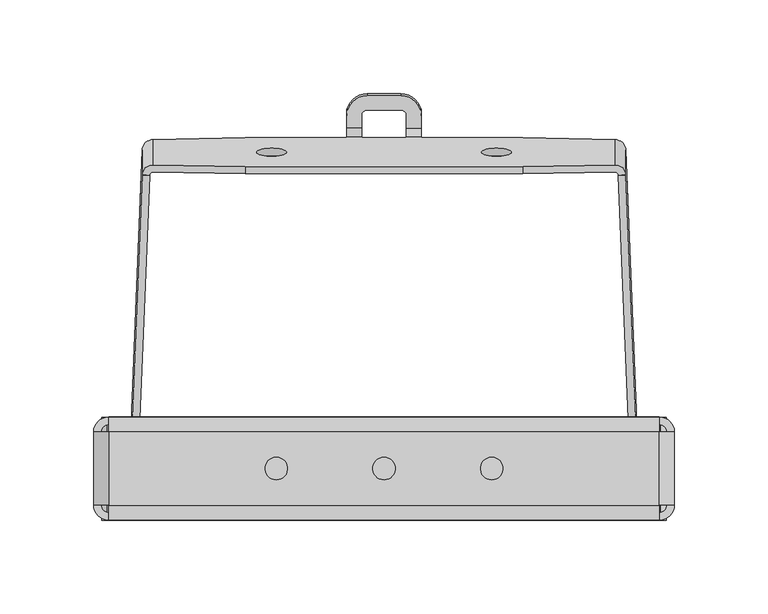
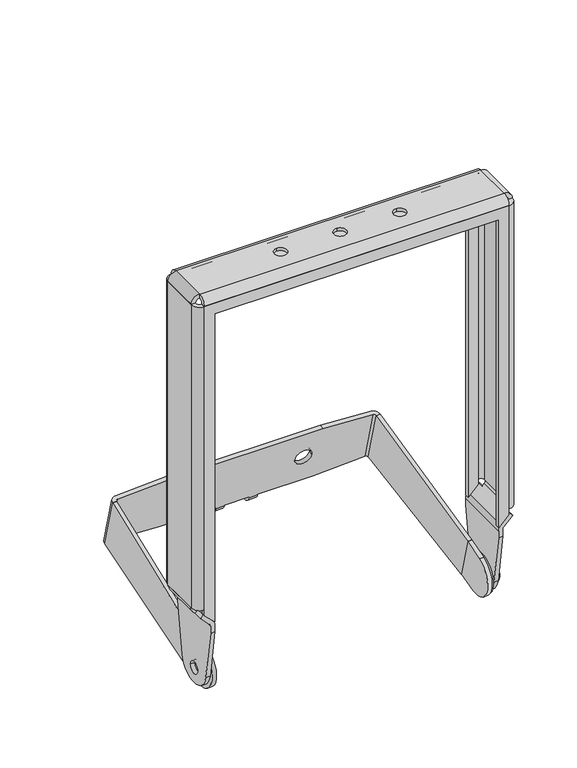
"""IFC4 building model written with IfcOpenShell, lengths in millimetres: proxy geometry, d&b U-Series U7 Swivel Bracket : d&b U-Series U7 Swivel Bracket."""

from ifc_helpers import new_model, si_unit, point, frame, frame_2d, origin, origin_2d, place, context, project, spatial, polyline, circle_curve, ellipse_curve, trimmed, segment, composite_curve, outline, extrude, source, transform, mapped, element, save
from ifc_brep_helpers import plane_surface, cylinder_surface, revolved_surface, advanced_brep


def communication_devices_1f7fb13f(model_context):
    return source(origin(), model_context, "Body", "SolidModel", [
        extrude(outline(polyline([(51.8465222, -1e-07), (0.000579, -1e-07), (5.2119989, 149.3506803), (46.6310815, 149.3506803), (51.8465222, -1e-07)])), frame((125.142689, 170.0266394, 18.7211781), z_axis=(0.999229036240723, 0.037922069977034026, 0.010161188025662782), x_axis=(0.0, -0.25881904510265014, 0.9659258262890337)), (0.0, 0.0, 1.0), 4.0),
        extrude(outline(polyline([(149.4417162, 0.0), (0.0, 0.0), (-1.4455051, 41.3938512), (147.6323189, 51.81436), (149.4417162, 0.0)])), frame((-131.0061692, 13.8071687, 25.138345), z_axis=(-0.9992290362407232, 0.03792206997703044, 0.010161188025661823), x_axis=(0.039235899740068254, 0.9555605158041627, 0.2921722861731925)), (0.0, 0.0, 1.0), 4.0),
        extrude(outline(composite_curve([segment(polyline([(13.9582388, 25.181297), (24.6788379, -14.8285235), (4.4990211, -19.4874013)]), True, "CONTINUOUS"), segment(trimmed(circle_curve(origin_2d(), 20.0), [point((4.4990211, -19.4874013))], [point((-5.8474341, 19.1260951))], False, "CARTESIAN"), True, "CONTINUOUS"), segment(polyline([(-5.8474341, 19.1260951), (13.9582388, 25.181297)]), True, "CONTINUOUS")], self_intersect=False)), frame((131.0, 0.0, 0.0), z_axis=(1.0, 0.0, 0.0), x_axis=(0.0, 1.0, 0.0)), (0.0, 0.0, 1.0), 4.0),
        advanced_brep(
        [(123.1442309, 158.4118169, 69.4923159), (74.0, 157.5223854, 72.8117194), (-74.0, 157.5223854, 72.8117194), (-123.1442309, 158.4118169, 69.4923159), (-123.1442309, 171.959118, 18.9331), (-74.0, 172.8485495, 15.6136965), (-20.0, 172.8485495, 15.6136965), (-20.0, 173.1073685, 14.6477707), (-12.0, 173.1073685, 14.6477707), (-12.0, 172.8485495, 15.6136965), (12.0, 172.8485495, 15.6136965), (12.0, 173.1073685, 14.6477707), (20.0, 173.1073685, 14.6477707), (20.0, 172.8485495, 15.6136965), (74.0, 172.8485495, 15.6136965), (123.1442309, 171.959118, 18.9331), (-68.015413, 165.1854675, 44.2127079), (-51.9395257, 165.1854675, 44.2127079), (68.015413, 165.1854675, 44.2127079), (51.9395257, 165.1854675, 44.2127079), (-123.1442309, 162.2755202, 70.5275921), (-74.0, 161.3860887, 73.8469956), (74.0, 161.3860887, 73.8469956), (123.1442309, 162.2755202, 70.5275921), (123.1442309, 175.8228213, 19.9683762), (74.0, 176.7122528, 16.6489727), (20.0, 176.7122528, 16.6489727), (20.0, 176.9710718, 15.6830468), (12.0, 176.9710718, 15.6830468), (12.0, 176.7122528, 16.6489727), (-12.0, 176.7122528, 16.6489727), (-12.0, 176.9710718, 15.6830468), (-20.0, 176.9710718, 15.6830468), (-20.0, 176.7122528, 16.6489727), (-74.0, 176.7122528, 16.6489727), (-123.1442309, 175.8228213, 19.9683762), (-51.9395257, 169.0491708, 45.2479841), (-68.015413, 169.0491708, 45.2479841), (51.9395257, 169.0491708, 45.2479841), (68.015413, 169.0491708, 45.2479841), (129.1390436, 156.815972, 68.6307247), (125.142689, 156.5919783, 68.8600161), (125.142689, 170.0669416, 18.5707684), (129.1390436, 170.1462802, 18.8813374), (-125.142689, 156.5919783, 68.8600161), (-125.142689, 170.0669416, 18.5707684), (-129.1390436, 156.815972, 68.6307247), (-129.1390436, 170.1462802, 18.8813374), (-12.0, 182.9053275, 8.9909164), (-12.0, 189.6668083, 10.8026497), (-12.0, 188.6315321, 14.666353), (-12.0, 181.8700513, 12.8546197), (-20.0, 181.8700513, 12.8546197), (-20.0, 188.6315321, 14.666353), (-20.0, 189.6668083, 10.8026497), (-20.0, 182.9053275, 8.9909164), (-9.0, 191.5293096, 15.4428102), (9.0, 191.5293096, 15.4428102), (12.0, 188.6315321, 14.666353), (12.0, 181.8700513, 12.8546197), (20.0, 181.8700513, 12.8546197), (20.0, 188.6315321, 14.666353), (9.0, 199.2567162, 17.5133625), (-9.0, 199.2567162, 17.5133625), (-9.0, 200.2919924, 13.6496592), (9.0, 200.2919924, 13.6496592), (20.0, 189.6668083, 10.8026497), (20.0, 182.9053275, 8.9909164), (12.0, 182.9053275, 8.9909164), (12.0, 189.6668083, 10.8026497), (9.0, 192.5645858, 11.5791069), (-9.0, 192.5645858, 11.5791069)],
        [
            (0, 1),
            (1, 2),
            (2, 3),
            (3, 4),
            (4, 5),
            (5, 6),
            (6, 7),
            (7, 8),
            (8, 9),
            (9, 10),
            (10, 11),
            (11, 12),
            (12, 13),
            (13, 14),
            (14, 15),
            (15, 0),
            (16, 17, circle_curve(frame((-59.9774693, 165.1854675, 44.2127079), z_axis=(0.0, 0.9659258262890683, 0.2588190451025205), x_axis=(1.0, 0.0, 0.0)), 8.0379437)),
            (17, 16, circle_curve(frame((-59.9774693, 165.1854675, 44.2127079), z_axis=(0.0, 0.9659258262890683, 0.2588190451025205), x_axis=(1.0, 0.0, 0.0)), 8.0379437)),
            (18, 19, circle_curve(frame((59.9774693, 165.1854675, 44.2127079), z_axis=(0.0, 0.9659258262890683, 0.2588190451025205), x_axis=(-1.0, 0.0, 0.0)), 8.0379437)),
            (19, 18, circle_curve(frame((59.9774693, 165.1854675, 44.2127079), z_axis=(0.0, 0.9659258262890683, 0.2588190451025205), x_axis=(-1.0, 0.0, 0.0)), 8.0379437)),
            (20, 21),
            (21, 22),
            (22, 23),
            (23, 24),
            (24, 25),
            (25, 26),
            (26, 27),
            (27, 28),
            (28, 29),
            (29, 30),
            (30, 31),
            (31, 32),
            (32, 33),
            (33, 34),
            (34, 35),
            (35, 20),
            (36, 37, circle_curve(frame((-59.9774693, 169.0491708, 45.2479841), z_axis=(0.0, -0.9659258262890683, -0.2588190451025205), x_axis=(1.0, 0.0, 0.0)), 8.0379437)),
            (37, 36, circle_curve(frame((-59.9774693, 169.0491708, 45.2479841), z_axis=(0.0, -0.9659258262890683, -0.2588190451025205), x_axis=(1.0, 0.0, 0.0)), 8.0379437)),
            (38, 39, circle_curve(frame((59.9774693, 169.0491708, 45.2479841), z_axis=(0.0, -0.9659258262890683, -0.2588190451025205), x_axis=(-1.0, 0.0, 0.0)), 8.0379437)),
            (39, 38, circle_curve(frame((59.9774693, 169.0491708, 45.2479841), z_axis=(0.0, -0.9659258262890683, -0.2588190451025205), x_axis=(-1.0, 0.0, 0.0)), 8.0379437)),
            (40, 41),
            (41, 42),
            (42, 43),
            (43, 40),
            (17, 36),
            (37, 16),
            (19, 38),
            (39, 18),
            (3, 44, ellipse_curve(frame((-123.1442309, 156.4799653, 68.9746778), z_axis=(-0.06975647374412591, -0.2581885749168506, 0.9635728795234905), x_axis=(-0.9975640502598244, 0.018054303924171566, -0.06737957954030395)), 2.0048838, 2.0)),
            (44, 45),
            (45, 4, ellipse_curve(frame((-123.1442309, 170.0272663, 18.4154619), z_axis=(-0.0697564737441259, 0.25818857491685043, -0.9635728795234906), x_axis=(0.9975640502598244, 0.01805430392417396, -0.06737957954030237)), 2.0048838, 2.0)),
            (44, 46),
            (46, 47),
            (47, 45),
            (35, 47, ellipse_curve(frame((-123.1442309, 170.0278313, 18.4156133), z_axis=(0.0697564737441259, -0.25818857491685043, 0.9635728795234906), x_axis=(-0.9975640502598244, -0.01805430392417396, 0.06737957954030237)), 6.014065, 5.9994151)),
            (46, 20, ellipse_curve(frame((-123.1442309, 156.4805303, 68.9748292), z_axis=(0.06975647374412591, 0.2581885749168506, -0.9635728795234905), x_axis=(0.9975640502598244, -0.018054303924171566, 0.06737957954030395)), 6.014065, 5.9994151)),
            (43, 24, ellipse_curve(frame((123.1442309, 170.0278313, 18.4156133), z_axis=(-0.06975647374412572, -0.2581885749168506, 0.9635728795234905), x_axis=(0.9975640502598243, -0.01805430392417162, 0.06737957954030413)), 6.014065, 5.9994151)),
            (23, 40, ellipse_curve(frame((123.1442309, 156.4805303, 68.9748292), z_axis=(-0.06975647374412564, 0.2581885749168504, -0.9635728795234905), x_axis=(-0.9975640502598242, -0.01805430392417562, 0.06737957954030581)), 6.014065, 5.9994151)),
            (15, 42, ellipse_curve(frame((123.1442309, 170.0272663, 18.4154619), z_axis=(0.06975647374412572, 0.2581885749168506, -0.9635728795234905), x_axis=(-0.9975640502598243, 0.01805430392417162, -0.06737957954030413)), 2.0048838, 2.0)),
            (41, 0, ellipse_curve(frame((123.1442309, 156.4799653, 68.9746778), z_axis=(0.06975647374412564, -0.2581885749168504, 0.9635728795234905), x_axis=(0.9975640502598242, 0.01805430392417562, -0.06737957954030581)), 2.0048838, 2.0)),
            (14, 25),
            (13, 26),
            (33, 6),
            (5, 34),
            (29, 10),
            (9, 30),
            (2, 21),
            (1, 22),
            (8, 48, circle_curve(frame((-12.0, 180.8347751, 16.718323), z_axis=(1.0, 0.0, 0.0), x_axis=(0.0, 0.9659258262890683, 0.2588190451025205)), 8.0)),
            (48, 49),
            (49, 50),
            (50, 51),
            (51, 31, circle_curve(frame((-12.0, 180.8347751, 16.718323), z_axis=(-1.0, 0.0, 0.0), x_axis=(0.0, 0.9659258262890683, 0.2588190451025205)), 4.0)),
            (32, 52, circle_curve(frame((-20.0, 180.8347751, 16.718323), z_axis=(1.0, 0.0, 0.0), x_axis=(0.0, 0.9659258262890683, 0.2588190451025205)), 4.0)),
            (52, 53),
            (53, 54),
            (54, 55),
            (55, 7, circle_curve(frame((-20.0, 180.8347751, 16.718323), z_axis=(-1.0, 0.0, 0.0), x_axis=(0.0, 0.9659258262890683, 0.2588190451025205)), 8.0)),
            (51, 52),
            (50, 56, circle_curve(frame((-9.0, 188.6315321, 14.666353), z_axis=(0.0, 0.2588190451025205, -0.9659258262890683), x_axis=(1.0, 0.0, 0.0)), 3.0)),
            (56, 57),
            (57, 58, circle_curve(frame((9.0, 188.6315321, 14.666353), z_axis=(0.0, 0.2588190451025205, -0.9659258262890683), x_axis=(-1.0, 0.0, 0.0)), 3.0)),
            (58, 59),
            (59, 60),
            (60, 61),
            (61, 62, circle_curve(frame((9.0, 188.6315321, 14.666353), z_axis=(0.0, -0.2588190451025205, 0.9659258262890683), x_axis=(-1.0, 0.0, 0.0)), 11.0)),
            (62, 63),
            (63, 53, circle_curve(frame((-9.0, 188.6315321, 14.666353), z_axis=(0.0, -0.2588190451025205, 0.9659258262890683), x_axis=(1.0, 0.0, 0.0)), 11.0)),
            (48, 55),
            (54, 64, circle_curve(frame((-9.0, 189.6668083, 10.8026497), z_axis=(0.0, 0.2588190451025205, -0.9659258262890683), x_axis=(1.0, 0.0, 0.0)), 11.0)),
            (64, 65),
            (65, 66, circle_curve(frame((9.0, 189.6668083, 10.8026497), z_axis=(0.0, 0.2588190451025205, -0.9659258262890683), x_axis=(-1.0, 0.0, 0.0)), 11.0)),
            (66, 67),
            (67, 68),
            (68, 69),
            (69, 70, circle_curve(frame((9.0, 189.6668083, 10.8026497), z_axis=(0.0, -0.2588190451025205, 0.9659258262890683), x_axis=(-1.0, 0.0, 0.0)), 3.0)),
            (70, 71),
            (71, 49, circle_curve(frame((-9.0, 189.6668083, 10.8026497), z_axis=(0.0, -0.2588190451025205, 0.9659258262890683), x_axis=(1.0, 0.0, 0.0)), 3.0)),
            (28, 59, circle_curve(frame((12.0, 180.8347751, 16.718323), z_axis=(1.0, 0.0, 0.0), x_axis=(0.0, 0.9659258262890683, 0.2588190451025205)), 4.0)),
            (58, 69),
            (68, 11, circle_curve(frame((12.0, 180.8347751, 16.718323), z_axis=(-1.0, 0.0, 0.0), x_axis=(0.0, 0.9659258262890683, 0.2588190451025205)), 8.0)),
            (12, 67, circle_curve(frame((20.0, 180.8347751, 16.718323), z_axis=(1.0, 0.0, 0.0), x_axis=(0.0, 0.9659258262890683, 0.2588190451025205)), 8.0)),
            (66, 61),
            (60, 27, circle_curve(frame((20.0, 180.8347751, 16.718323), z_axis=(-1.0, 0.0, 0.0), x_axis=(0.0, 0.9659258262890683, 0.2588190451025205)), 4.0)),
            (56, 71),
            (70, 57),
            (63, 64),
            (62, 65),
        ],
        [
            plane_surface(frame((123.1442309, 152.5170253, 91.4919777), z_axis=(0.0, -0.9659258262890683, -0.2588190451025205), x_axis=(0.0, 0.2588190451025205, -0.9659258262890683))),
            plane_surface(frame((-123.1442309, 156.3807286, 92.5272539), z_axis=(0.0, 0.9659258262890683, 0.2588190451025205), x_axis=(0.0, 0.2588190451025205, -0.9659258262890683))),
            plane_surface(frame((129.1390436, 150.8126839, 91.0353008), z_axis=(0.0392596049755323, -0.9651811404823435, -0.25861950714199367), x_axis=(0.0, 0.2588190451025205, -0.9659258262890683))),
            revolved_surface(polyline([(-51.9395256, 169.04917079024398, 45.24798413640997), (-51.9395256, 165.18546748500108, 44.21270795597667)]), (-59.9774693, 144.9010251, 38.777508), (0.0, 0.9659258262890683, 0.2588190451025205)),
            revolved_surface(polyline([(51.9395256, 169.0491708, 45.2479841), (51.9395256, 165.18546749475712, 44.212707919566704)]), (59.9774693, 169.0491708, 45.2479841), (0.0, 0.9659258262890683, 0.2588190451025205)),
            revolved_surface(polyline([(-125.1442309, 170.06346311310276, 18.28037368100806), (-125.1442309, 156.44376848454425, 69.10976601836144)]), (-123.1442309, 173.893741, 3.985582), (0.0, 0.2588190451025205, -0.9659258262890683)),
            plane_surface(frame((-125.142689, 150.6610178, 90.994662), z_axis=(-0.03925960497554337, -0.9651811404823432, -0.2586195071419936), x_axis=(0.0, 0.2588190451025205, -0.9659258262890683))),
            cylinder_surface(frame((-123.1442309, 173.894306, 3.9857334), z_axis=(0.0, -0.2588190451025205, 0.9659258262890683), x_axis=(-1.0, 0.0, 0.0)), 5.9994151),
            cylinder_surface(frame((123.1442309, 173.894306, 3.9857334), z_axis=(0.0, -0.2588190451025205, 0.9659258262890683), x_axis=(1.0, 0.0, 0.0)), 5.9994151),
            revolved_surface(polyline([(125.1442309, 170.06346311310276, 18.28037368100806), (125.1442309, 156.44376848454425, 69.10976601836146)]), (123.1442309, 173.893741, 3.985582), (0.0, 0.2588190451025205, -0.9659258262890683)),
            plane_surface(frame((141.9929542, 223.9217654, 34.2209756), z_axis=(0.06975647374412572, 0.2581885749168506, -0.9635728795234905), x_axis=(0.0, -0.9659258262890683, -0.2588190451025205))),
            plane_surface(frame((74.0, 225.1523285, 29.6284518), z_axis=(0.0, 0.2588190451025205, -0.9659258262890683), x_axis=(0.0, -0.9659258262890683, -0.2588190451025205))),
            plane_surface(frame((-74.0, 225.1523285, 29.6284518), z_axis=(-0.06975647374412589, 0.2581885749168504, -0.9635728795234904), x_axis=(0.0, -0.9659258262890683, -0.2588190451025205))),
            plane_surface(frame((-148.0070458, 211.1655728, 81.8277344), z_axis=(-0.06975647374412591, -0.2581885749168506, 0.9635728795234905), x_axis=(0.0, -0.9659258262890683, -0.2588190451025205))),
            plane_surface(frame((-74.0, 209.8261644, 86.8264747), z_axis=(0.0, -0.2588190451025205, 0.9659258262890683), x_axis=(0.0, -0.9659258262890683, -0.2588190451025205))),
            plane_surface(frame((74.0, 209.8261644, 86.8264747), z_axis=(0.06975647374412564, -0.2581885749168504, 0.9635728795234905), x_axis=(0.0, -0.9659258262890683, -0.2588190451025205))),
            plane_surface(frame((-12.0, 184.6984784, 17.7535992), z_axis=(1.0, 0.0, 0.0), x_axis=(0.0, -0.2588190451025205, 0.9659258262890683))),
            plane_surface(frame((-20.0, 184.6984784, 17.7535992), z_axis=(-1.0, 0.0, 0.0), x_axis=(0.0, 0.2588190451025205, -0.9659258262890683))),
            revolved_surface(polyline([(-20.0, 184.69847840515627, 17.753599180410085), (-12.0, 184.69847840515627, 17.753599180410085)]), (-20.0, 180.8347751, 16.718323), (-1.0, 0.0, 0.0)),
            plane_surface(frame((-12.0, 181.8700513, 12.8546197), z_axis=(0.0, -0.2588190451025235, 0.9659258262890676), x_axis=(-1.0, 0.0, 0.0))),
            plane_surface(frame((-12.0, 189.6668083, 10.8026497), z_axis=(0.0, 0.258819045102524, -0.9659258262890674), x_axis=(-1.0, 0.0, 0.0))),
            cylinder_surface(frame((-20.0, 180.8347751, 16.718323), z_axis=(1.0, 0.0, 0.0), x_axis=(0.0, 0.9659258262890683, 0.2588190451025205)), 8.0),
            plane_surface(frame((12.0, 175.8228213, 19.9683762), z_axis=(-1.0, 0.0, 0.0), x_axis=(0.0, -0.2588190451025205, 0.9659258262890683))),
            plane_surface(frame((20.0, 175.8228213, 19.9683762), z_axis=(1.0, 0.0, 0.0), x_axis=(0.0, 0.2588190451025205, -0.9659258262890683))),
            revolved_surface(polyline([(20.0, 184.69847840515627, 17.753599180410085), (12.0, 184.69847840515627, 17.753599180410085)]), (20.0, 180.8347751, 16.718323), (1.0, 0.0, 0.0)),
            cylinder_surface(frame((20.0, 180.8347751, 16.718323), z_axis=(-1.0, 0.0, 0.0), x_axis=(0.0, 0.9659258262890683, 0.2588190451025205)), 8.0),
            plane_surface(frame((9.0, 191.5293096, 15.4428102), z_axis=(0.0, -0.9659258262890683, -0.2588190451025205), x_axis=(0.0, 0.2588190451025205, -0.9659258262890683))),
            revolved_surface(polyline([(-6.0, 189.6668083, 10.8026497), (-6.0, 188.63153210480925, 14.666353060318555)]), (-9.0, 189.6668083, 10.8026497), (0.0, 0.2588190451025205, -0.9659258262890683)),
            cylinder_surface(frame((-9.0, 189.6668083, 10.8026497), z_axis=(0.0, -0.2588190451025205, 0.9659258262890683), x_axis=(1.0, 0.0, 0.0)), 11.0),
            plane_surface(frame((-9.0, 199.2567162, 17.5133625), z_axis=(0.0, 0.9659258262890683, 0.2588190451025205), x_axis=(0.0, 0.2588190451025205, -0.9659258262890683))),
            cylinder_surface(frame((9.0, 189.6668083, 10.8026497), z_axis=(0.0, -0.2588190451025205, 0.9659258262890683), x_axis=(-1.0, 0.0, 0.0)), 11.0),
            revolved_surface(polyline([(6.0, 189.6668083, 10.8026497), (6.0, 188.63153210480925, 14.666353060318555)]), (9.0, 189.6668083, 10.8026497), (0.0, 0.2588190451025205, -0.9659258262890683)),
        ],
        [
            (0, [[1, 2, 3, 4, 5, 6, 7, 8, 9, 10, 11, 12, 13, 14, 15, 16], [17, 18], [19, 20]]),
            (1, [[21, 22, 23, 24, 25, 26, 27, 28, 29, 30, 31, 32, 33, 34, 35, 36], [37, 38], [39, 40]]),
            (2, [[41, 42, 43, 44]]),
            (3, [[-18, 45, -38, 46]]),
            (3, [[-37, -45, -17, -46]]),
            (4, [[-20, 47, -40, 48]]),
            (4, [[-39, -47, -19, -48]]),
            (5, [[49, 50, 51, -4]]),
            (6, [[52, 53, 54, -50]]),
            (7, [[55, -53, 56, -36]]),
            (8, [[57, -24, 58, -44]]),
            (9, [[59, -42, 60, -16]]),
            (10, [[-25, -57, -43, -59, -15, 61]]),
            (11, [[-14, 62, -26, -61]]),
            (11, [[-34, 63, -6, 64]]),
            (11, [[-30, 65, -10, 66]]),
            (12, [[-5, -51, -54, -55, -35, -64]]),
            (13, [[-21, -56, -52, -49, -3, 67]]),
            (14, [[-2, 68, -22, -67]]),
            (15, [[-1, -60, -41, -58, -23, -68]]),
            (16, [[-31, -66, -9, 69, 70, 71, 72, 73]]),
            (17, [[74, 75, 76, 77, 78, -7, -63, -33]]),
            (18, [[79, -74, -32, -73]]),
            (19, [[80, 81, 82, 83, 84, 85, 86, 87, 88, -75, -79, -72]]),
            (20, [[89, -77, 90, 91, 92, 93, 94, 95, 96, 97, 98, -70]]),
            (21, [[-8, -78, -89, -69]]),
            (22, [[99, -83, 100, -95, 101, -11, -65, -29]]),
            (23, [[-27, -62, -13, 102, -93, 103, -85, 104]]),
            (24, [[-28, -104, -84, -99]]),
            (25, [[-94, -102, -12, -101]]),
            (26, [[105, -97, 106, -81]]),
            (27, [[-71, -98, -105, -80]]),
            (28, [[107, -90, -76, -88]]),
            (29, [[108, -91, -107, -87]]),
            (30, [[-103, -92, -108, -86]]),
            (31, [[-106, -96, -100, -82]]),
        ],
    ),
        advanced_brep(
        [(-135.0, -5.8474341, 19.1260951), (-135.0, 10.0493739, 23.9862371), (-135.0, 13.9582388, 25.181297), (-135.0, 24.6788379, -14.8285235), (-135.0, 20.6961316, -15.7480037), (-135.0, 4.4990211, -19.4874013), (-131.0, 13.9582388, 25.181297), (-131.0, 10.0493739, 23.9862371), (-131.0, -5.8474341, 19.1260951), (-131.0, 4.4990211, -19.4874013), (-131.0, 20.6961316, -15.7480037), (-131.0, 24.6788379, -14.8285235)],
        [
            (0, 1),
            (1, 2),
            (2, 3),
            (3, 4),
            (4, 5),
            (5, 0, circle_curve(frame((-135.0, 0.0, 0.0), z_axis=(-1.0, 0.0, 0.0), x_axis=(0.0, 0.9659258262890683, 0.2588190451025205)), 20.0)),
            (6, 7),
            (7, 8),
            (8, 9, circle_curve(frame((-131.0, 0.0, 0.0), z_axis=(1.0, 0.0, 0.0), x_axis=(0.0, 0.9659258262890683, 0.2588190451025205)), 20.0)),
            (9, 10),
            (10, 11),
            (11, 6),
            (5, 9),
            (8, 0),
            (2, 6),
            (11, 3),
        ],
        [
            plane_surface(frame((-135.0, -5.8474341, 19.1260951), z_axis=(-1.0000000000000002, 0.0, 0.0), x_axis=(0.0, -0.9563047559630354, -0.2923717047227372))),
            plane_surface(frame((-131.0, -5.8474341, 19.1260951), z_axis=(1.0000000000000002, 0.0, 0.0), x_axis=(0.0, 0.9563047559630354, 0.2923717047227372))),
            cylinder_surface(frame((-131.0, 0.0, 0.0), z_axis=(-1.0, 0.0, 0.0), x_axis=(0.0, 0.9659258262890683, 0.2588190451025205)), 20.0),
            plane_surface(frame((-135.0, 24.6788379, -14.8285235), z_axis=(0.0, 0.965925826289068, 0.2588190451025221), x_axis=(1.0, 0.0, 0.0))),
            plane_surface(frame((-135.0, 4.4990211, -19.4874013), z_axis=(0.0, 0.22495105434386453, -0.9743700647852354), x_axis=(1.0, 0.0, 0.0))),
            plane_surface(frame((-135.0, 13.9582388, 25.181297), z_axis=(0.0, -0.2923717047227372, 0.9563047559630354), x_axis=(1.0, 0.0, 0.0))),
        ],
        [
            (0, [[1, 2, 3, 4, 5, 6]]),
            (1, [[7, 8, 9, 10, 11, 12]]),
            (2, [[13, -9, 14, -6]]),
            (3, [[15, -12, 16, -3]]),
            (4, [[-11, -10, -13, -5, -4, -16]]),
            (5, [[-2, -1, -14, -8, -7, -15]]),
        ],
    ),
        extrude(outline(polyline([(376.1, 137.0), (61.8431458, 137.0), (71.7740865, 146.9309407), (387.0, 146.9309407), (387.0, -146.9309407), (71.7740865, -146.9309407), (61.8431458, -137.0), (376.1, -137.0), (376.1, 137.0)])), frame((0.0, 23.5263009, 0.0), z_axis=(0.0, 1.0, 0.0), x_axis=(0.0, 0.0, 1.0)), (0.0, 0.0, 1.0), 4.0016589),
        extrude(outline(polyline([(376.1, 137.0), (61.8431458, 137.0), (71.7740865, 146.9309407), (387.0, 146.9309407), (387.0, -146.9309407), (71.7740865, -146.9309407), (61.8431458, -137.0), (376.1, -137.0), (376.1, 137.0)])), frame((0.0, -27.5279598, 0.0), z_axis=(0.0, 1.0, 0.0), x_axis=(0.0, 0.0, 1.0)), (0.0, 0.0, 1.0), 4.0016589),
        extrude(outline(composite_curve([segment(polyline([(-154.9570429, -19.5018577), (-154.9570429, 19.4895115)]), True, "CONTINUOUS"), segment(trimmed(circle_curve(frame_2d((-146.9309407, 19.4895115)), 8.0261021), [point((-154.9570429, 19.4895115))], [point((-146.9309407, 27.5156136))], False, "CARTESIAN"), True, "CONTINUOUS"), segment(polyline([(-146.9309407, 27.5156136), (-146.9309407, 23.5139547)]), True, "CONTINUOUS"), segment(trimmed(circle_curve(frame_2d((-146.9309407, 19.4876538)), 4.0263009), [point((-146.9309407, 23.5139547))], [point((-150.9572417, 19.4876538))], True, "CARTESIAN"), True, "CONTINUOUS"), segment(polyline([(-150.9572417, 19.4876538), (-150.9572417, -19.5)]), True, "CONTINUOUS"), segment(trimmed(circle_curve(frame_2d((-146.9309407, -19.5)), 4.0263009), [point((-150.9572417, -19.5))], [point((-146.9309407, -23.5263009))], True, "CARTESIAN"), True, "CONTINUOUS"), segment(polyline([(-146.9309407, -23.5263009), (-146.9309407, -27.5279598)]), True, "CONTINUOUS"), segment(trimmed(circle_curve(frame_2d((-146.9309407, -19.5018577)), 8.0261021), [point((-146.9309407, -27.5279598))], [point((-154.9570429, -19.5018577))], False, "CARTESIAN"), True, "CONTINUOUS")], self_intersect=False)), frame((0.0, 0.0, 77.5), z_axis=(0.0, 0.0, 1.0), x_axis=(1.0, 0.0, 0.0)), (0.0, 0.0, 1.0), 309.5),
        extrude(outline(composite_curve([segment(trimmed(circle_curve(frame_2d((146.9309407, -19.5018577)), 8.0261021), [point((154.9570429, -19.5018577))], [point((146.9309407, -27.5279598))], False, "CARTESIAN"), True, "CONTINUOUS"), segment(polyline([(146.9309407, -27.5279598), (146.9309407, -23.5263009)]), True, "CONTINUOUS"), segment(trimmed(circle_curve(frame_2d((146.9309407, -19.5)), 4.0263009), [point((146.9309407, -23.5263009))], [point((150.9572417, -19.5))], True, "CARTESIAN"), True, "CONTINUOUS"), segment(polyline([(150.9572417, -19.5), (150.9572417, 19.4876538)]), True, "CONTINUOUS"), segment(trimmed(circle_curve(frame_2d((146.9309407, 19.4876538)), 4.0263009), [point((150.9572417, 19.4876538))], [point((146.9309407, 23.5139547))], True, "CARTESIAN"), True, "CONTINUOUS"), segment(polyline([(146.9309407, 23.5139547), (146.9309407, 27.5156136)]), True, "CONTINUOUS"), segment(trimmed(circle_curve(frame_2d((146.9309407, 19.4895115)), 8.0261021), [point((146.9309407, 27.5156136))], [point((154.9570429, 19.4895115))], False, "CARTESIAN"), True, "CONTINUOUS"), segment(polyline([(154.9570429, 19.4895115), (154.9570429, -19.5018577)]), True, "CONTINUOUS")], self_intersect=False)), frame((0.0, 0.0, 77.5), z_axis=(0.0, 0.0, 1.0), x_axis=(1.0, 0.0, 0.0)), (0.0, 0.0, 1.0), 309.5),
        advanced_brep(
        [(147.2, 0.0, -11.75), (147.2, 0.0, 0.0), (147.2, 0.0, 11.75), (141.0, 0.0, 0.0), (141.0, 0.0, -11.75), (141.0, 0.0, 11.75)],
        [
            (0, 1),
            (1, 2),
            (2, 0, circle_curve(frame((147.2, 0.0, 0.0), z_axis=(1.0, 0.0, 0.0), x_axis=(0.0, 0.0, 1.0)), 11.75)),
            (0, 2, circle_curve(frame((147.2, 0.0, 0.0), z_axis=(1.0, 0.0, 0.0), x_axis=(0.0, 0.0, 1.0)), 11.75)),
            (3, 4),
            (4, 5, circle_curve(frame((141.0, 0.0, 0.0), z_axis=(-1.0, 0.0, 0.0), x_axis=(0.0, 0.0, 1.0)), 11.75)),
            (5, 3),
            (5, 4, circle_curve(frame((141.0, 0.0, 0.0), z_axis=(-1.0, 0.0, 0.0), x_axis=(0.0, 0.0, 1.0)), 11.75)),
            (4, 0),
            (2, 5),
        ],
        [
            plane_surface(frame((147.2, 0.0, 0.0), z_axis=(1.0, 0.0, 0.0), x_axis=(0.0, 0.0, 1.0))),
            plane_surface(frame((141.0, 0.0, 0.0), z_axis=(-1.0, 0.0, 0.0), x_axis=(0.0, 0.0, 1.0))),
            cylinder_surface(frame((130.2, 0.0, 0.0), z_axis=(-1.0, 0.0, 0.0), x_axis=(0.0, 0.0, 1.0)), 11.75),
        ],
        [
            (0, [[1, 2, 3]]),
            (0, [[-2, -1, 4]]),
            (1, [[5, 6, 7]]),
            (1, [[-7, 8, -5]]),
            (2, [[9, -3, 10, -6]]),
            (2, [[-10, -4, -9, -8]]),
        ],
    ),
        advanced_brep(
        [(135.0030853, 0.0, -19.0085486), (137.0744152, 0.0, -19.0085486), (137.0744152, 0.0, 19.0085486), (135.0030853, 0.0, 19.0085486), (137.0744152, 0.0, 0.0), (135.0030853, 0.0, 0.0)],
        [
            (0, 1),
            (1, 2, circle_curve(frame((137.0744152, 0.0, 0.0), z_axis=(-1.0, 0.0, 0.0), x_axis=(0.0, 0.0, 1.0)), 19.0085486)),
            (2, 3),
            (3, 0, circle_curve(frame((135.0030853, 0.0, 0.0), z_axis=(1.0, 0.0, 0.0), x_axis=(0.0, 0.0, 1.0)), 19.0085486)),
            (2, 1, circle_curve(frame((137.0744152, 0.0, 0.0), z_axis=(-1.0, 0.0, 0.0), x_axis=(0.0, 0.0, 1.0)), 19.0085486)),
            (0, 3, circle_curve(frame((135.0030853, 0.0, 0.0), z_axis=(1.0, 0.0, 0.0), x_axis=(0.0, 0.0, 1.0)), 19.0085486)),
            (1, 4),
            (4, 2),
            (5, 0),
            (3, 5),
        ],
        [
            cylinder_surface(frame((130.2, 0.0, 0.0), z_axis=(-1.0, 0.0, 0.0), x_axis=(0.0, 0.0, 1.0)), 19.0085486),
            plane_surface(frame((137.0744152, 0.0, 0.0), z_axis=(1.0, 0.0, 0.0), x_axis=(0.0, 0.0, 1.0))),
            plane_surface(frame((135.0030853, 0.0, 0.0), z_axis=(-1.0, 0.0, 0.0), x_axis=(0.0, 0.0, 1.0))),
        ],
        [
            (0, [[1, 2, 3, 4]]),
            (0, [[-3, 5, -1, 6]]),
            (1, [[7, 8, -2]]),
            (1, [[-8, -7, -5]]),
            (2, [[9, -4, 10]]),
            (2, [[-10, -6, -9]]),
        ],
    ),
        advanced_brep(
        [(-137.0, 27.5, 51.7799875), (-141.0, 27.5, 51.7799875), (-141.0, 27.5, 58.5294373), (-142.1715729, 27.5, 61.3578644), (-150.6494216, 27.5, 69.8357131), (-147.8209945, 27.5, 72.6641403), (-139.3431458, 27.5, 64.1862915), (-137.0, 27.5, 58.5294373), (-141.0, -27.5, 51.7799875), (-137.0, -27.5, 51.7799875), (-137.0, -27.5, 58.5294373), (-139.3431458, -27.5, 64.1862915), (-147.8209945, -27.5, 72.6641403), (-150.6494216, -27.5, 69.8357131), (-142.1715729, -27.5, 61.3578644), (-141.0, -27.5, 58.5294373), (-137.0, -19.7654158, 1.7257548), (-137.0, 19.7654158, 1.7257548), (-137.0, 6.0, 0.0), (-137.0, -6.0, 0.0), (-147.8209945, 18.7, 72.6641403), (-149.8284271, 18.7, 74.6715729), (-149.8284271, -18.7, 74.6715729), (-147.8209945, -18.7, 72.6641403), (-150.6494216, -18.7, 69.8357131), (-150.6494216, 18.7, 69.8357131), (-152.6568542, -18.7, 71.8431458), (-152.6568542, 18.7, 71.8431458), (-141.0, 19.7654158, 1.7257548), (-141.0, -19.7654158, 1.7257548), (-141.0, 6.0, 0.0), (-141.0, -6.0, 0.0), (-150.9563542, 18.7, 77.5), (-154.9570429, 18.7, 77.5), (-150.9563542, -18.7, 77.5), (-154.9570429, -18.7, 77.5)],
        [
            (0, 1),
            (1, 2),
            (2, 3, circle_curve(frame((-145.0, 27.5, 58.5294373), z_axis=(0.0, -1.0, 0.0), x_axis=(1.0, 0.0, 0.0)), 4.0)),
            (3, 4),
            (4, 5),
            (5, 6),
            (6, 7, circle_curve(frame((-145.0, 27.5, 58.5294373), z_axis=(0.0, 1.0, 0.0), x_axis=(1.0, 0.0, 0.0)), 8.0)),
            (7, 0),
            (8, 9),
            (9, 10),
            (10, 11, circle_curve(frame((-145.0, -27.5, 58.5294373), z_axis=(0.0, -1.0, 0.0), x_axis=(1.0, 0.0, 0.0)), 8.0)),
            (11, 12),
            (12, 13),
            (13, 14),
            (14, 15, circle_curve(frame((-145.0, -27.5, 58.5294373), z_axis=(0.0, 1.0, 0.0), x_axis=(1.0, 0.0, 0.0)), 4.0)),
            (15, 8),
            (7, 10),
            (9, 16),
            (16, 17, circle_curve(frame((-137.0, 0.0, 4.7799875), z_axis=(1.0, 0.0, 0.0), x_axis=(0.0, -1.0, 0.0)), 20.0)),
            (17, 0),
            (18, 19, circle_curve(frame((-137.0, 0.0, 0.0), z_axis=(-1.0, 0.0, 0.0), x_axis=(0.0, -1.0, 0.0)), 6.0)),
            (19, 18, circle_curve(frame((-137.0, 0.0, 0.0), z_axis=(-1.0, 0.0, 0.0), x_axis=(0.0, -1.0, 0.0)), 6.0)),
            (6, 11),
            (5, 20),
            (20, 21),
            (21, 22),
            (22, 23),
            (23, 12),
            (23, 24),
            (24, 13),
            (4, 25),
            (25, 20),
            (3, 14),
            (24, 26),
            (26, 27),
            (27, 25),
            (2, 15),
            (1, 28),
            (28, 29, circle_curve(frame((-141.0, 0.0, 4.7799875), z_axis=(-1.0, 0.0, 0.0), x_axis=(0.0, -1.0, 0.0)), 20.0)),
            (29, 8),
            (30, 31, circle_curve(frame((-141.0, 0.0, 0.0), z_axis=(1.0, 0.0, 0.0), x_axis=(0.0, -1.0, 0.0)), 6.0)),
            (31, 30, circle_curve(frame((-141.0, 0.0, 0.0), z_axis=(1.0, 0.0, 0.0), x_axis=(0.0, -1.0, 0.0)), 6.0)),
            (32, 21, circle_curve(frame((-147.1021056, 18.7, 77.3978944), z_axis=(0.0, -1.0, 0.0), x_axis=(1.0, 0.0, 0.0)), 3.8556009)),
            (27, 33, circle_curve(frame((-147.1021056, 18.7, 77.3978944), z_axis=(0.0, 1.0, 0.0), x_axis=(1.0, 0.0, 0.0)), 7.8556009)),
            (33, 32),
            (34, 35),
            (35, 26, circle_curve(frame((-147.1021056, -18.7, 77.3978944), z_axis=(0.0, -1.0, 0.0), x_axis=(1.0, 0.0, 0.0)), 7.8556009)),
            (22, 34, circle_curve(frame((-147.1021056, -18.7, 77.3978944), z_axis=(0.0, 1.0, 0.0), x_axis=(1.0, 0.0, 0.0)), 3.8556009)),
            (33, 35),
            (34, 32),
            (17, 28),
            (16, 29),
            (19, 31),
            (30, 18),
        ],
        [
            plane_surface(frame((-137.0, 27.5, 51.7799875), z_axis=(0.0, 1.0, 0.0), x_axis=(1.0, 0.0, 0.0))),
            plane_surface(frame((-137.0, -27.5, 51.7799875), z_axis=(0.0, -1.0, 0.0), x_axis=(-1.0, 0.0, 0.0))),
            plane_surface(frame((-137.0, 27.5, 51.7799875), z_axis=(1.0, 0.0, 0.0), x_axis=(0.0, -1.0, 0.0))),
            cylinder_surface(frame((-145.0, -27.5, 58.5294373), z_axis=(0.0, 1.0, 0.0), x_axis=(1.0, 0.0, 0.0)), 8.0),
            plane_surface(frame((-139.3431458, 27.5, 64.1862915), z_axis=(0.7071067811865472, 0.0, 0.7071067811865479), x_axis=(0.0, -1.0, 0.0))),
            plane_surface(frame((-147.8209945, 27.5, 72.6641403), z_axis=(-0.7071067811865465, 0.0, 0.7071067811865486), x_axis=(0.0, -1.0, 0.0))),
            plane_surface(frame((-150.6494216, 27.5, 69.8357131), z_axis=(-0.7071067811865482, 0.0, -0.7071067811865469), x_axis=(0.0, -1.0, 0.0))),
            revolved_surface(polyline([(-141.0, -27.5, 58.5294373), (-141.0, 27.5, 58.5294373)]), (-145.0, -27.5, 58.5294373), (0.0, -1.0, 0.0)),
            plane_surface(frame((-141.0, 27.5, 58.5294373), z_axis=(-1.0, 0.0, 0.0), x_axis=(0.0, -1.0, 0.0))),
            plane_surface(frame((-154.9570429, 18.7, 77.5), z_axis=(0.0, 1.0, 0.0), x_axis=(-1.0, 0.0, 0.0))),
            plane_surface(frame((-154.9570429, -18.7, 77.5), z_axis=(0.0, -1.0, 0.0), x_axis=(1.0, 0.0, 0.0))),
            plane_surface(frame((-150.9563542, 18.7, 77.5), z_axis=(0.0, 0.0, 1.0), x_axis=(0.0, -1.0, 0.0))),
            cylinder_surface(frame((-147.1021056, -18.7, 77.3978944), z_axis=(0.0, 1.0, 0.0), x_axis=(1.0, 0.0, 0.0)), 7.8556009),
            revolved_surface(polyline([(-143.24650469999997, -18.7, 77.3978944), (-143.24650469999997, 18.7, 77.3978944)]), (-147.1021056, -18.7, 77.3978944), (0.0, -1.0, 0.0)),
            plane_surface(frame((-137.0, 27.5, 51.7799875), z_axis=(0.0, 0.9882707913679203, -0.15271163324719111), x_axis=(-1.0, 0.0, 0.0))),
            cylinder_surface(frame((-141.0, 0.0, 4.7799875), z_axis=(1.0, 0.0, 0.0), x_axis=(0.0, -1.0, 0.0)), 20.0),
            plane_surface(frame((-137.0, -19.7654158, 1.7257548), z_axis=(0.0, -0.9882707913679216, -0.15271163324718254), x_axis=(-1.0, 0.0, 0.0))),
            revolved_surface(polyline([(-141.0, -6.0, 0.0), (-137.0, -6.0, 0.0)]), (0.0, 0.0, 0.0), (-1.0, 0.0, 0.0)),
        ],
        [
            (0, [[1, 2, 3, 4, 5, 6, 7, 8]]),
            (1, [[9, 10, 11, 12, 13, 14, 15, 16]]),
            (2, [[17, -10, 18, 19, 20, -8], [21, 22]]),
            (3, [[23, -11, -17, -7]]),
            (4, [[24, 25, 26, 27, 28, -12, -23, -6]]),
            (5, [[-28, 29, 30, -13]]),
            (5, [[31, 32, -24, -5]]),
            (6, [[33, -14, -30, 34, 35, 36, -31, -4]]),
            (7, [[37, -15, -33, -3]]),
            (8, [[38, 39, 40, -16, -37, -2], [41, 42]]),
            (9, [[43, -25, -32, -36, 44, 45]]),
            (10, [[46, 47, -34, -29, -27, 48]]),
            (11, [[49, -46, 50, -45]]),
            (12, [[-35, -47, -49, -44]]),
            (13, [[-50, -48, -26, -43]]),
            (14, [[51, -38, -1, -20]]),
            (15, [[52, -39, -51, -19]]),
            (16, [[-9, -40, -52, -18]]),
            (17, [[53, -41, 54, -22]]),
            (17, [[-54, -42, -53, -21]]),
        ],
    ),
        advanced_brep(
        [(141.0, 27.5, 51.7799875), (137.0, 27.5, 51.7799875), (137.0, 27.5, 58.5294373), (139.3431458, 27.5, 64.1862915), (147.8209945, 27.5, 72.6641403), (150.6494216, 27.5, 69.8357131), (142.1715729, 27.5, 61.3578644), (141.0, 27.5, 58.5294373), (137.0, -27.5, 51.7799875), (141.0, -27.5, 51.7799875), (141.0, -27.5, 58.5294373), (142.1715729, -27.5, 61.3578644), (150.6494216, -27.5, 69.8357131), (147.8209945, -27.5, 72.6641403), (139.3431458, -27.5, 64.1862915), (137.0, -27.5, 58.5294373), (150.9563542, 18.7, 77.5), (154.9570429, 18.7, 77.5), (152.6568542, 18.7, 71.8431458), (150.6494216, 18.7, 69.8357131), (147.8209945, 18.7, 72.6641403), (149.8284271, 18.7, 74.6715729), (150.9563542, -18.7, 77.5), (149.8284271, -18.7, 74.6715729), (147.8209945, -18.7, 72.6641403), (150.6494216, -18.7, 69.8357131), (152.6568542, -18.7, 71.8431458), (154.9570429, -18.7, 77.5), (141.0, -19.7654158, 1.7257548), (141.0, 19.7654158, 1.7257548), (141.0, 6.0, 0.0), (141.0, -6.0, 0.0), (137.0, 19.7654158, 1.7257548), (137.0, -19.7654158, 1.7257548), (137.0, 6.0, 0.0), (137.0, -6.0, 0.0)],
        [
            (0, 1),
            (1, 2),
            (2, 3, circle_curve(frame((145.0, 27.5, 58.5294373), z_axis=(0.0, 1.0, 0.0), x_axis=(1.0, 0.0, 0.0)), 8.0)),
            (3, 4),
            (4, 5),
            (5, 6),
            (6, 7, circle_curve(frame((145.0, 27.5, 58.5294373), z_axis=(0.0, -1.0, 0.0), x_axis=(1.0, 0.0, 0.0)), 4.0)),
            (7, 0),
            (8, 9),
            (9, 10),
            (10, 11, circle_curve(frame((145.0, -27.5, 58.5294373), z_axis=(0.0, 1.0, 0.0), x_axis=(1.0, 0.0, 0.0)), 4.0)),
            (11, 12),
            (12, 13),
            (13, 14),
            (14, 15, circle_curve(frame((145.0, -27.5, 58.5294373), z_axis=(0.0, -1.0, 0.0), x_axis=(1.0, 0.0, 0.0)), 8.0)),
            (15, 8),
            (16, 17),
            (17, 18, circle_curve(frame((147.1021056, 18.7, 77.3978944), z_axis=(0.0, 1.0, 0.0), x_axis=(1.0, 0.0, 0.0)), 7.8556009)),
            (18, 19),
            (19, 20),
            (20, 21),
            (21, 16, circle_curve(frame((147.1021056, 18.7, 77.3978944), z_axis=(0.0, -1.0, 0.0), x_axis=(1.0, 0.0, 0.0)), 3.8556009)),
            (22, 23, circle_curve(frame((147.1021056, -18.7, 77.3978944), z_axis=(0.0, 1.0, 0.0), x_axis=(1.0, 0.0, 0.0)), 3.8556009)),
            (23, 24),
            (24, 25),
            (25, 26),
            (26, 27, circle_curve(frame((147.1021056, -18.7, 77.3978944), z_axis=(0.0, -1.0, 0.0), x_axis=(1.0, 0.0, 0.0)), 7.8556009)),
            (27, 22),
            (21, 23),
            (22, 16),
            (17, 27),
            (26, 18),
            (7, 10),
            (9, 28),
            (28, 29, circle_curve(frame((141.0, 0.0, 4.7799875), z_axis=(1.0, 0.0, 0.0), x_axis=(0.0, -1.0, 0.0)), 20.0)),
            (29, 0),
            (30, 31, circle_curve(frame((141.0, 0.0, 0.0), z_axis=(-1.0, 0.0, 0.0), x_axis=(0.0, -1.0, 0.0)), 6.0)),
            (31, 30, circle_curve(frame((141.0, 0.0, 0.0), z_axis=(-1.0, 0.0, 0.0), x_axis=(0.0, -1.0, 0.0)), 6.0)),
            (6, 11),
            (5, 19),
            (25, 12),
            (24, 13),
            (4, 20),
            (3, 14),
            (2, 15),
            (1, 32),
            (32, 33, circle_curve(frame((137.0, 0.0, 4.7799875), z_axis=(-1.0, 0.0, 0.0), x_axis=(0.0, -1.0, 0.0)), 20.0)),
            (33, 8),
            (34, 35, circle_curve(frame((137.0, 0.0, 0.0), z_axis=(1.0, 0.0, 0.0), x_axis=(0.0, -1.0, 0.0)), 6.0)),
            (35, 34, circle_curve(frame((137.0, 0.0, 0.0), z_axis=(1.0, 0.0, 0.0), x_axis=(0.0, -1.0, 0.0)), 6.0)),
            (29, 32),
            (28, 33),
            (34, 30),
            (31, 35),
        ],
        [
            plane_surface(frame((-137.0, 27.5, 51.7799875), z_axis=(0.0, 1.0, 0.0), x_axis=(1.0, 0.0, 0.0))),
            plane_surface(frame((-137.0, -27.5, 51.7799875), z_axis=(0.0, -1.0, 0.0), x_axis=(-1.0, 0.0, 0.0))),
            plane_surface(frame((-154.9570429, 18.7, 77.5), z_axis=(0.0, 1.0, 0.0), x_axis=(-1.0, 0.0, 0.0))),
            plane_surface(frame((-154.9570429, -18.7, 77.5), z_axis=(0.0, -1.0, 0.0), x_axis=(1.0, 0.0, 0.0))),
            revolved_surface(polyline([(150.9577065, -18.7, 77.3978944), (150.9577065, 18.7, 77.3978944)]), (147.1021056, 0.0, 77.3978944), (0.0, -1.0, 0.0)),
            cylinder_surface(frame((147.1021056, 0.0, 77.3978944), z_axis=(0.0, 1.0, 0.0), x_axis=(1.0, 0.0, 0.0)), 7.8556009),
            plane_surface(frame((154.9570429, 18.7, 77.5), z_axis=(0.0, 0.0, 1.0), x_axis=(0.0, -1.0, 0.0))),
            plane_surface(frame((141.0, 27.5, 51.7799875), z_axis=(1.0, 0.0, 0.0), x_axis=(0.0, -1.0, 0.0))),
            revolved_surface(polyline([(149.0, -27.5, 58.5294373), (149.0, 27.5, 58.5294373)]), (145.0, 0.0, 58.5294373), (0.0, -1.0, 0.0)),
            plane_surface(frame((142.1715729, 27.5, 61.3578644), z_axis=(0.7071067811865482, 0.0, -0.7071067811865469), x_axis=(0.0, -1.0, 0.0))),
            plane_surface(frame((150.6494216, 27.5, 69.8357131), z_axis=(0.7071067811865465, 0.0, 0.7071067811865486), x_axis=(0.0, -1.0, 0.0))),
            plane_surface(frame((147.8209945, 27.5, 72.6641403), z_axis=(-0.7071067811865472, 0.0, 0.7071067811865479), x_axis=(0.0, -1.0, 0.0))),
            cylinder_surface(frame((145.0, 0.0, 58.5294373), z_axis=(0.0, 1.0, 0.0), x_axis=(1.0, 0.0, 0.0)), 8.0),
            plane_surface(frame((137.0, 27.5, 58.5294373), z_axis=(-1.0, 0.0, 0.0), x_axis=(0.0, -1.0, 0.0))),
            plane_surface(frame((137.0, 19.7654158, 1.7257548), z_axis=(0.0, 0.9882707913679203, -0.15271163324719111), x_axis=(1.0, 0.0, 0.0))),
            cylinder_surface(frame((141.0, 0.0, 4.7799875), z_axis=(-1.0, 0.0, 0.0), x_axis=(0.0, -1.0, 0.0)), 20.0),
            plane_surface(frame((137.0, -27.5, 51.7799875), z_axis=(0.0, -0.9882707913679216, -0.15271163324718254), x_axis=(1.0, 0.0, 0.0))),
            revolved_surface(polyline([(141.0, -6.0, 0.0), (137.0, -6.0, 0.0)]), (0.0, 0.0, 0.0), (1.0, 0.0, 0.0)),
        ],
        [
            (0, [[1, 2, 3, 4, 5, 6, 7, 8]]),
            (1, [[9, 10, 11, 12, 13, 14, 15, 16]]),
            (2, [[17, 18, 19, 20, 21, 22]]),
            (3, [[23, 24, 25, 26, 27, 28]]),
            (4, [[29, -23, 30, -22]]),
            (5, [[31, -27, 32, -18]]),
            (6, [[-30, -28, -31, -17]]),
            (7, [[33, -10, 34, 35, 36, -8], [37, 38]]),
            (8, [[39, -11, -33, -7]]),
            (9, [[40, -19, -32, -26, 41, -12, -39, -6]]),
            (10, [[-41, -25, 42, -13]]),
            (10, [[43, -20, -40, -5]]),
            (11, [[44, -14, -42, -24, -29, -21, -43, -4]]),
            (12, [[45, -15, -44, -3]]),
            (13, [[46, 47, 48, -16, -45, -2], [49, 50]]),
            (14, [[-1, -36, 51, -46]]),
            (15, [[-51, -35, 52, -47]]),
            (16, [[-52, -34, -9, -48]]),
            (17, [[53, -38, 54, -49]]),
            (17, [[-54, -37, -53, -50]]),
        ],
    ),
        extrude(outline(composite_curve([segment(polyline([(390.9570429, -147.0), (394.9570429, -147.0)]), True, "CONTINUOUS"), segment(trimmed(circle_curve(frame_2d((387.0, -147.0)), 7.9570429), [point((394.9570429, -147.0))], [point((387.0, -154.9570429))], False, "CARTESIAN"), True, "CONTINUOUS"), segment(polyline([(387.0, -154.9570429), (387.0, -150.9570429)]), True, "CONTINUOUS"), segment(trimmed(circle_curve(frame_2d((387.0, -147.0)), 3.9570429), [point((387.0, -150.9570429))], [point((390.9570429, -147.0))], True, "CARTESIAN"), True, "CONTINUOUS")], self_intersect=False)), frame((0.0, -19.5, 0.0), z_axis=(0.0, 1.0, 0.0), x_axis=(0.0, 0.0, 1.0)), (0.0, 0.0, 1.0), 38.9876538),
        extrude(outline(composite_curve([segment(trimmed(circle_curve(frame_2d((387.0, 147.0)), 3.9570429), [point((390.9570429, 147.0))], [point((387.0, 150.9570429))], True, "CARTESIAN"), True, "CONTINUOUS"), segment(polyline([(387.0, 150.9570429), (387.0, 154.9570429)]), True, "CONTINUOUS"), segment(trimmed(circle_curve(frame_2d((387.0, 147.0)), 7.9570429), [point((387.0, 154.9570429))], [point((394.9570429, 147.0))], False, "CARTESIAN"), True, "CONTINUOUS"), segment(polyline([(394.9570429, 147.0), (390.9570429, 147.0)]), True, "CONTINUOUS")], self_intersect=False)), frame((0.0, -19.5, 0.0), z_axis=(0.0, 1.0, 0.0), x_axis=(0.0, 0.0, 1.0)), (0.0, 0.0, 1.0), 38.9876538),
        extrude(outline(composite_curve([segment(polyline([(-154.9570429, -19.5018577), (-154.9570429, 19.4895115)]), True, "CONTINUOUS"), segment(trimmed(circle_curve(frame_2d((-146.9309407, 19.4895115)), 8.0261021), [point((-154.9570429, 19.4895115))], [point((-146.9309407, 27.5156136))], False, "CARTESIAN"), True, "CONTINUOUS"), segment(polyline([(-146.9309407, 27.5156136), (-146.9309407, 23.5139547)]), True, "CONTINUOUS"), segment(trimmed(circle_curve(frame_2d((-146.9309407, 19.4876538)), 4.0263009), [point((-146.9309407, 23.5139547))], [point((-150.9572417, 19.4876538))], True, "CARTESIAN"), True, "CONTINUOUS"), segment(polyline([(-150.9572417, 19.4876538), (-150.9572417, -19.5)]), True, "CONTINUOUS"), segment(trimmed(circle_curve(frame_2d((-146.9309407, -19.5)), 4.0263009), [point((-150.9572417, -19.5))], [point((-146.9309407, -23.5263009))], True, "CARTESIAN"), True, "CONTINUOUS"), segment(polyline([(-146.9309407, -23.5263009), (-146.9309407, -27.5279598)]), True, "CONTINUOUS"), segment(trimmed(circle_curve(frame_2d((-146.9309407, -19.5018577)), 8.0261021), [point((-146.9309407, -27.5279598))], [point((-154.9570429, -19.5018577))], False, "CARTESIAN"), True, "CONTINUOUS")], self_intersect=False)), frame((0.0, 0.0, 77.5), z_axis=(0.0, 0.0, 1.0), x_axis=(1.0, 0.0, 0.0)), (0.0, 0.0, 1.0), 309.5),
        extrude(outline(composite_curve([segment(trimmed(circle_curve(frame_2d((146.9309407, -19.5018577)), 8.0261021), [point((154.9570429, -19.5018577))], [point((146.9309407, -27.5279598))], False, "CARTESIAN"), True, "CONTINUOUS"), segment(polyline([(146.9309407, -27.5279598), (146.9309407, -23.5263009)]), True, "CONTINUOUS"), segment(trimmed(circle_curve(frame_2d((146.9309407, -19.5)), 4.0263009), [point((146.9309407, -23.5263009))], [point((150.9572417, -19.5))], True, "CARTESIAN"), True, "CONTINUOUS"), segment(polyline([(150.9572417, -19.5), (150.9572417, 19.4876538)]), True, "CONTINUOUS"), segment(trimmed(circle_curve(frame_2d((146.9309407, 19.4876538)), 4.0263009), [point((150.9572417, 19.4876538))], [point((146.9309407, 23.5139547))], True, "CARTESIAN"), True, "CONTINUOUS"), segment(polyline([(146.9309407, 23.5139547), (146.9309407, 27.5156136)]), True, "CONTINUOUS"), segment(trimmed(circle_curve(frame_2d((146.9309407, 19.4895115)), 8.0261021), [point((146.9309407, 27.5156136))], [point((154.9570429, 19.4895115))], False, "CARTESIAN"), True, "CONTINUOUS"), segment(polyline([(154.9570429, 19.4895115), (154.9570429, -19.5018577)]), True, "CONTINUOUS")], self_intersect=False)), frame((0.0, 0.0, 77.5), z_axis=(0.0, 0.0, 1.0), x_axis=(1.0, 0.0, 0.0)), (0.0, 0.0, 1.0), 309.5),
        advanced_brep(
        [(147.0, -23.5263009, 387.0), (147.0, -19.5263009, 391.0), (147.0, 19.5263009, 391.0), (147.0, 23.5263009, 387.0), (147.0, 27.5279598, 387.0), (147.0, 19.5263009, 395.0), (147.0, -19.5263009, 395.0), (147.0, -27.5279598, 387.0), (-147.0, -23.5263009, 387.0), (-147.0, -27.5279598, 387.0), (-147.0, -19.5263009, 395.0), (-147.0, 19.5263009, 395.0), (-147.0, 27.5279598, 387.0), (-147.0, 23.5263009, 387.0), (-147.0, 19.5263009, 391.0), (-147.0, -19.5263009, 391.0), (-57.5, -6.0, 395.0), (-57.5, 6.0, 395.0), (0.0, 6.0, 395.0), (0.0, -6.0, 395.0), (57.5, 6.0, 395.0), (57.5, -6.0, 395.0), (-57.5, -6.0, 392.1), (-57.5, 6.0, 392.1), (0.0, 6.0, 392.1), (0.0, -6.0, 392.1), (57.5, 6.0, 392.1), (57.5, -6.0, 392.1)],
        [
            (0, 1, circle_curve(frame((147.0, -19.5263009, 387.0), z_axis=(-1.0, 0.0, 0.0), x_axis=(0.0, -1.0, 0.0)), 4.0)),
            (1, 2),
            (2, 3, circle_curve(frame((147.0, 19.5263009, 387.0), z_axis=(-1.0, 0.0, 0.0), x_axis=(0.0, -1.0, 0.0)), 4.0)),
            (3, 4),
            (4, 5, circle_curve(frame((147.0, 19.5263009, 386.9983409), z_axis=(1.0, 0.0, 0.0), x_axis=(0.0, -1.0, 0.0)), 8.0016591)),
            (5, 6),
            (6, 7, circle_curve(frame((147.0, -19.5263009, 386.9983409), z_axis=(1.0, 0.0, 0.0), x_axis=(0.0, -1.0, 0.0)), 8.0016591)),
            (7, 0),
            (8, 9),
            (9, 10, circle_curve(frame((-147.0, -19.5263009, 386.9983409), z_axis=(-1.0, 0.0, 0.0), x_axis=(0.0, -1.0, 0.0)), 8.0016591)),
            (10, 11),
            (11, 12, circle_curve(frame((-147.0, 19.5263009, 386.9983409), z_axis=(-1.0, 0.0, 0.0), x_axis=(0.0, -1.0, 0.0)), 8.0016591)),
            (12, 13),
            (13, 14, circle_curve(frame((-147.0, 19.5263009, 387.0), z_axis=(1.0, 0.0, 0.0), x_axis=(0.0, -1.0, 0.0)), 4.0)),
            (14, 15),
            (15, 8, circle_curve(frame((-147.0, -19.5263009, 387.0), z_axis=(1.0, 0.0, 0.0), x_axis=(0.0, -1.0, 0.0)), 4.0)),
            (1, 15),
            (14, 2),
            (5, 11),
            (10, 6),
            (16, 17, circle_curve(frame((-57.5, 0.0, 395.0), z_axis=(0.0, 0.0, -1.0), x_axis=(0.0, -1.0, 0.0)), 6.0)),
            (17, 16, circle_curve(frame((-57.5, 0.0, 395.0), z_axis=(0.0, 0.0, -1.0), x_axis=(0.0, -1.0, 0.0)), 6.0)),
            (18, 19, circle_curve(frame((0.0, 0.0, 395.0), z_axis=(0.0, 0.0, -1.0), x_axis=(0.0, -1.0, 0.0)), 6.0)),
            (19, 18, circle_curve(frame((0.0, 0.0, 395.0), z_axis=(0.0, 0.0, -1.0), x_axis=(0.0, -1.0, 0.0)), 6.0)),
            (20, 21, circle_curve(frame((57.5, 0.0, 395.0), z_axis=(0.0, 0.0, -1.0), x_axis=(0.0, -1.0, 0.0)), 6.0)),
            (21, 20, circle_curve(frame((57.5, 0.0, 395.0), z_axis=(0.0, 0.0, -1.0), x_axis=(0.0, -1.0, 0.0)), 6.0)),
            (7, 9),
            (8, 0),
            (22, 16),
            (17, 23),
            (23, 22, circle_curve(frame((-57.5, 0.0, 392.1), z_axis=(0.0, 0.0, -1.0), x_axis=(0.0, -1.0, 0.0)), 6.0)),
            (22, 23, circle_curve(frame((-57.5, 0.0, 392.1), z_axis=(0.0, 0.0, -1.0), x_axis=(0.0, -1.0, 0.0)), 6.0)),
            (24, 18),
            (19, 25),
            (25, 24, circle_curve(frame((0.0, 0.0, 392.1), z_axis=(0.0, 0.0, -1.0), x_axis=(0.0, -1.0, 0.0)), 6.0)),
            (24, 25, circle_curve(frame((0.0, 0.0, 392.1), z_axis=(0.0, 0.0, -1.0), x_axis=(0.0, -1.0, 0.0)), 6.0)),
            (26, 20),
            (21, 27),
            (27, 26, circle_curve(frame((57.5, 0.0, 392.1), z_axis=(0.0, 0.0, -1.0), x_axis=(0.0, -1.0, 0.0)), 6.0)),
            (26, 27, circle_curve(frame((57.5, 0.0, 392.1), z_axis=(0.0, 0.0, -1.0), x_axis=(0.0, -1.0, 0.0)), 6.0)),
            (4, 12),
            (3, 13),
        ],
        [
            plane_surface(frame((147.0, -27.5279598, 387.0), z_axis=(1.0, 0.0, 0.0), x_axis=(0.0, -1.0, 0.0))),
            plane_surface(frame((-147.0, -27.5279598, 387.0), z_axis=(-1.0, 0.0, 0.0), x_axis=(0.0, 1.0, 0.0))),
            plane_surface(frame((147.0, 19.5263009, 391.0), z_axis=(0.0, 0.0, -1.0), x_axis=(-1.0, 0.0, 0.0))),
            plane_surface(frame((147.0, -19.5263009, 395.0), z_axis=(0.0, 0.0, 1.0), x_axis=(-1.0, 0.0, 0.0))),
            plane_surface(frame((147.0, -23.5263009, 387.0), z_axis=(0.0, 0.0, -1.0), x_axis=(-1.0, 0.0, 0.0))),
            revolved_surface(polyline([(-57.5, -6.0, 395.0), (-57.5, -6.0, 392.1)]), (-57.5, 0.0, 392.1), (0.0, 0.0, 1.0)),
            revolved_surface(polyline([(0.0, -6.0, 395.0), (0.0, -6.0, 392.1)]), (0.0, 0.0, 390.0), (0.0, 0.0, 1.0)),
            revolved_surface(polyline([(57.5, -6.0, 395.0), (57.5, -6.0, 392.1)]), (57.5, 0.0, 390.0), (0.0, 0.0, 1.0)),
            plane_surface(frame((-57.5, -6.0, 392.1), z_axis=(0.0, 0.0, 1.0), x_axis=(1.0, 0.0, 0.0))),
            cylinder_surface(frame((-147.0, -19.5263009, 386.9983409), z_axis=(1.0, 0.0, 0.0), x_axis=(0.0, -1.0, 0.0)), 8.0016591),
            cylinder_surface(frame((-147.0, 19.5263009, 386.9983409), z_axis=(1.0, 0.0, 0.0), x_axis=(0.0, -1.0, 0.0)), 8.0016591),
            plane_surface(frame((147.0, 27.5279598, 387.0), z_axis=(0.0, 0.0, -1.0), x_axis=(-1.0, 0.0, 0.0))),
            revolved_surface(polyline([(-147.0, 15.526300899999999, 387.0), (147.0, 15.526300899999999, 387.0)]), (-147.0, 19.5263009, 387.0), (-1.0, 0.0, 0.0)),
            revolved_surface(polyline([(-147.0, -23.5263009, 387.0), (147.0, -23.5263009, 387.0)]), (-147.0, -19.5263009, 387.0), (-1.0, 0.0, 0.0)),
        ],
        [
            (0, [[1, 2, 3, 4, 5, 6, 7, 8]]),
            (1, [[9, 10, 11, 12, 13, 14, 15, 16]]),
            (2, [[17, -15, 18, -2]]),
            (3, [[19, -11, 20, -6], [21, 22], [23, 24], [25, 26]]),
            (4, [[27, -9, 28, -8]]),
            (5, [[29, -22, 30, 31]]),
            (5, [[-30, -21, -29, 32]]),
            (6, [[33, -24, 34, 35]]),
            (6, [[-34, -23, -33, 36]]),
            (7, [[37, -26, 38, 39]]),
            (7, [[-38, -25, -37, 40]]),
            (8, [[-32, -31]]),
            (8, [[-35, -36]]),
            (8, [[-39, -40]]),
            (9, [[-20, -10, -27, -7]]),
            (10, [[41, -12, -19, -5]]),
            (11, [[42, -13, -41, -4]]),
            (12, [[-18, -14, -42, -3]]),
            (13, [[-28, -16, -17, -1]]),
        ],
    ),
    ])


if __name__ == "__main__":
    model = new_model("IFC4")
    model_context = context("Model", 3, world=origin())
    ifc_project = project(units=[si_unit("LENGTHUNIT", "METRE", prefix="MILLI")], contexts=[model_context])
    site = spatial("IfcSite", under=ifc_project)
    building = spatial("IfcBuilding", under=site)
    placement = place(None, origin())
    communication_devices_shape = communication_devices_1f7fb13f(model_context)
    element("IfcBuildingElementProxy", 1, Name="d&b U-Series U7 Swivel Bracket : d&b U-Series U7 Swivel Bracket", ObjectType="d&b U-Series U7 Swivel Bracket : d&b U-Series U7 Swivel Bracket", at=placement, inside=building, context=model_context, shape_type="MappedRepresentation", body=[
        mapped(communication_devices_shape, transform((0.0, 0.0, 0.0), x_axis=(1.0, 0.0, 0.0), y_axis=(0.0, 1.0, 0.0), z_axis=(0.0, 0.0, 1.0))),
    ])
    save(model, "model.ifc")
